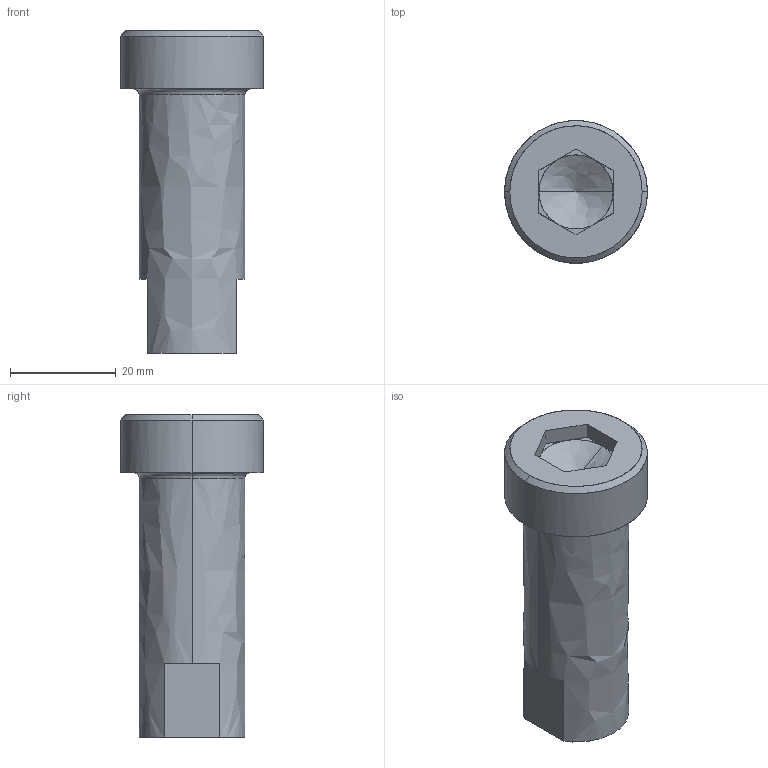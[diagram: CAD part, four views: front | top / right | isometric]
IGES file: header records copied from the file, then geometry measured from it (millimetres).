
Global section: file name: E:\UnigraphicsGraphicData\MISUMI_PRESS-PARTS\IGES\3d_sbtln20-50_05178_r00.igs; native system: NX V5.0; preprocessor: UGS NX IGES V5.0; author: MISUMI; date: 20110105.162505; units: millimetre
Bounding box: 27 x 27 x 61 mm (x, y, z)
Surface area: 6050.6 mm2 (no closed solid volume)
Topology: 0 solids, 0 shells, 36 faces, 210 edges, 206 vertices
Faces by surface type: bspline 36
